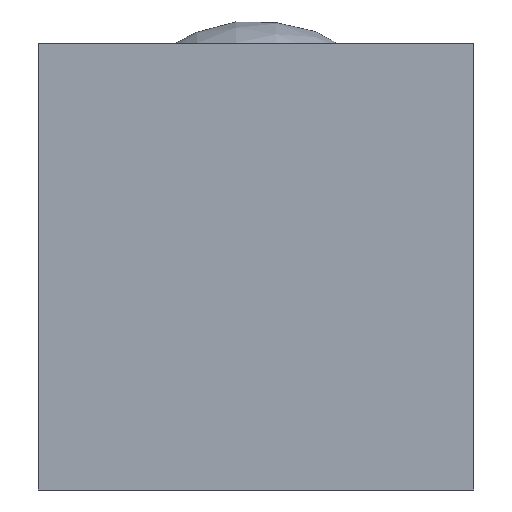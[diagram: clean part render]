
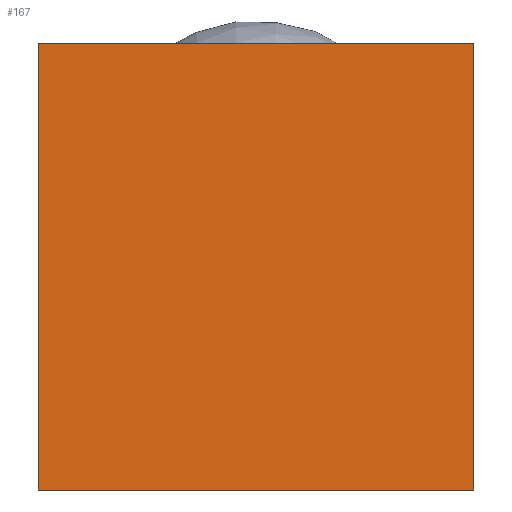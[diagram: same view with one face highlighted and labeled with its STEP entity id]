
A CAD part, front view. The second image highlights one B-rep face of the part: STEP entity #167.
In plain terms, the highlighted planar face has unit normal (0, -1, 0).
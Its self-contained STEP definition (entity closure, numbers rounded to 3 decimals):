
#20 = CARTESIAN_POINT ( 'NONE',  ( -9.75, -18., 6.5 ) ) ;
#21 = LINE ( 'NONE', #20, #170 ) ;
#25 = DIRECTION ( 'NONE',  ( 0., 1., 0. ) ) ;
#37 = DIRECTION ( 'NONE',  ( 0., 0., 1. ) ) ;
#38 = LINE ( 'NONE', #113, #44 ) ;
#41 = FACE_OUTER_BOUND ( 'NONE', #47, .T. ) ;
#42 = EDGE_CURVE ( 'NONE', #88, #50, #106, .T. ) ;
#44 = VECTOR ( 'NONE', #37, 1000. ) ;
#47 = EDGE_LOOP ( 'NONE', ( #197, #237, #218, #105 ) ) ;
#50 = VERTEX_POINT ( 'NONE', #68 ) ;
#59 = CARTESIAN_POINT ( 'NONE',  ( -9.75, -18., 6.5 ) ) ;
#68 = CARTESIAN_POINT ( 'NONE',  ( -9.75, -18., -13.5 ) ) ;
#74 = DIRECTION ( 'NONE',  ( -1., 0., 0. ) ) ;
#88 = VERTEX_POINT ( 'NONE', #207 ) ;
#89 = EDGE_CURVE ( 'NONE', #145, #50, #124, .T. ) ;
#102 = VERTEX_POINT ( 'NONE', #132 ) ;
#105 = ORIENTED_EDGE ( 'NONE', *, *, #42, .F. ) ;
#106 = LINE ( 'NONE', #149, #126 ) ;
#113 = CARTESIAN_POINT ( 'NONE',  ( 9.75, -18., -10. ) ) ;
#116 = EDGE_CURVE ( 'NONE', #102, #145, #21, .T. ) ;
#124 = LINE ( 'NONE', #233, #136 ) ;
#126 = VECTOR ( 'NONE', #153, 1000. ) ;
#130 = AXIS2_PLACEMENT_3D ( 'NONE', #196, #25, #155 ) ;
#132 = CARTESIAN_POINT ( 'NONE',  ( 9.75, -18., 6.5 ) ) ;
#136 = VECTOR ( 'NONE', #214, 1000. ) ;
#143 = EDGE_CURVE ( 'NONE', #88, #102, #38, .T. ) ;
#145 = VERTEX_POINT ( 'NONE', #59 ) ;
#149 = CARTESIAN_POINT ( 'NONE',  ( 9.75, -18., -13.5 ) ) ;
#153 = DIRECTION ( 'NONE',  ( -1., 0., 0. ) ) ;
#155 = DIRECTION ( 'NONE',  ( 0., 0., 1. ) ) ;
#167 = ADVANCED_FACE ( 'NONE', ( #41 ), #227, .F. ) ;
#170 = VECTOR ( 'NONE', #74, 1000. ) ;
#196 = CARTESIAN_POINT ( 'NONE',  ( 0., -18., -6. ) ) ;
#197 = ORIENTED_EDGE ( 'NONE', *, *, #143, .T. ) ;
#207 = CARTESIAN_POINT ( 'NONE',  ( 9.75, -18., -13.5 ) ) ;
#214 = DIRECTION ( 'NONE',  ( 0., 0., -1. ) ) ;
#218 = ORIENTED_EDGE ( 'NONE', *, *, #89, .T. ) ;
#227 = PLANE ( 'NONE',  #130 ) ;
#233 = CARTESIAN_POINT ( 'NONE',  ( -9.75, -18., -10. ) ) ;
#237 = ORIENTED_EDGE ( 'NONE', *, *, #116, .T. ) ;
